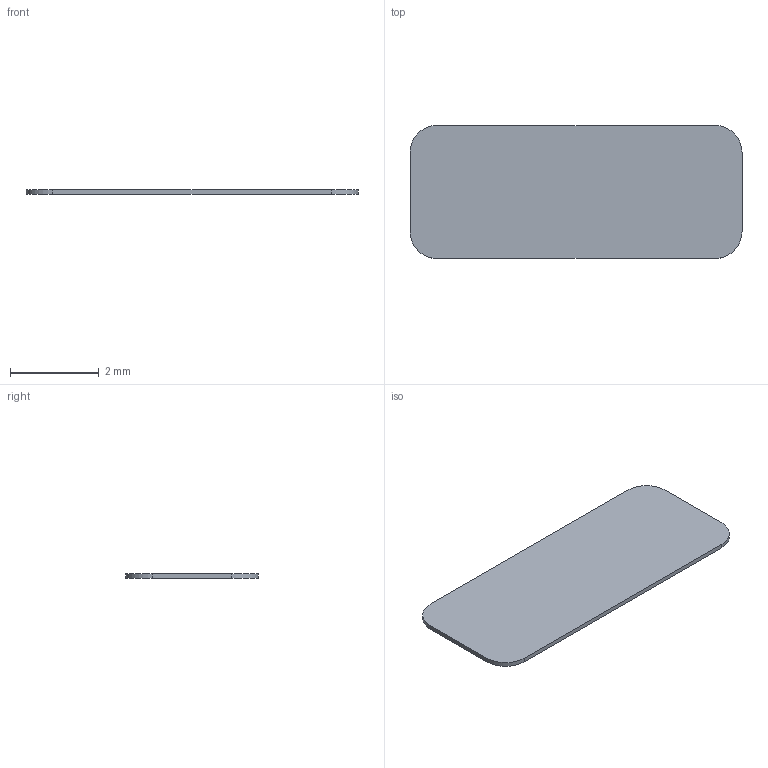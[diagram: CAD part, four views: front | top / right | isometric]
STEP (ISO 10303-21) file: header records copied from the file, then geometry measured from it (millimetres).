
FILE_DESCRIPTION(('Open CASCADE Model'),'2;1');
FILE_NAME('Open CASCADE Shape Model','2026-09-15T13:33:54',('Author'),( 'Open CASCADE'),'Open CASCADE STEP processor 7.7','Open CASCADE 7.7' ,'Unknown');
FILE_SCHEMA(('AUTOMOTIVE_DESIGN { 1 0 10303 214 1 1 1 1 }'));
Length unit declared in the file: millimetre
Products named in the file (1): Open CASCADE STEP translator 7.7 16
Bounding box: 7.5 x 3 x 0.1 mm (x, y, z)
Volume: 2.2 mm3; surface area: 46.4 mm2
Topology: 1 solids, 1 shells, 10 faces, 24 edges, 16 vertices
Faces by surface type: plane 6, cylinder 4
Entity records: 630 total; most frequent: CARTESIAN_POINT 123, DIRECTION 98, LINE 56, VECTOR 56, ORIENTED_EDGE 48, PCURVE 48, DEFINITIONAL_REPRESENTATION 48, EDGE_CURVE 24
